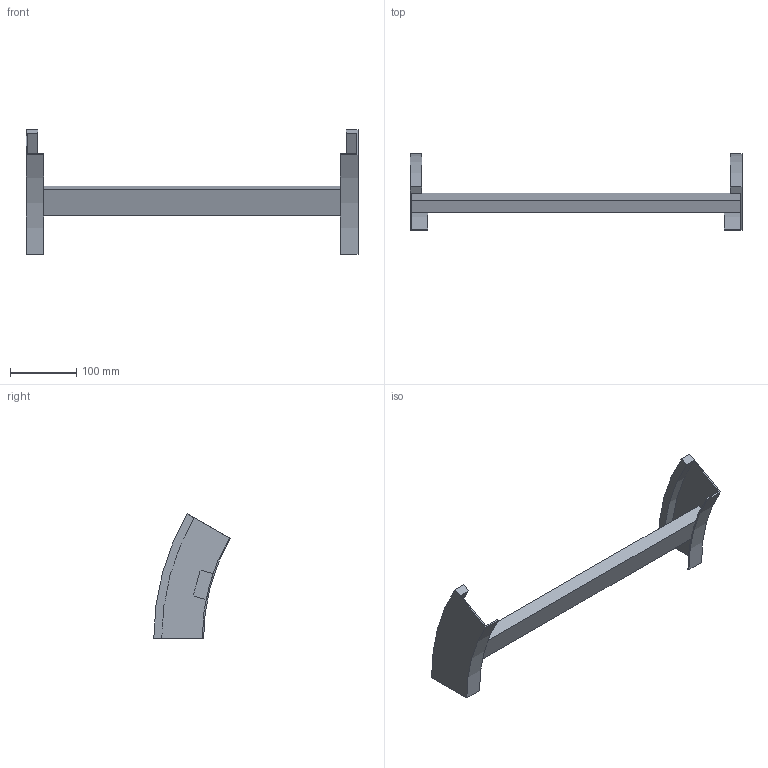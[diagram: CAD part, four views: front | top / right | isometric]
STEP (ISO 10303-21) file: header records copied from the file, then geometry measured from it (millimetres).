
FILE_DESCRIPTION (( 'STEP AP214' ), '1' );
FILE_NAME ('B2_35B3C500.step', '2025-02-21T14:50:31', ( '' ), ( '' ), 'SwSTEP 2.0', 'SolidWorks 2023', '' );
FILE_SCHEMA (( 'AUTOMOTIVE_DESIGN' ));
Length unit declared in the file: millimetre
Products named in the file (3): B2_35B3C500; TRAVERSINO_500; B2_LONGH.DISCESA_30°_H75_R300
Assembly tree (3 placements, depth 2):
  B2_35B3C500
    B2_LONGH.DISCESA_30°_H75_R300  x2
    TRAVERSINO_500
Bounding box: 500 x 115.19 x 187.5 mm (x, y, z)
Volume: 544726.6 mm3; surface area: 145757.7 mm2
Topology: 3 solids, 3 shells, 26 faces, 60 edges, 40 vertices
Faces by surface type: plane 18, cylinder 8
Entity records: 544 total; most frequent: DIRECTION 88, CARTESIAN_POINT 82, ORIENTED_EDGE 72, EDGE_CURVE 36, AXIS2_PLACEMENT_3D 30, VECTOR 28, LINE 28, VERTEX_POINT 24
